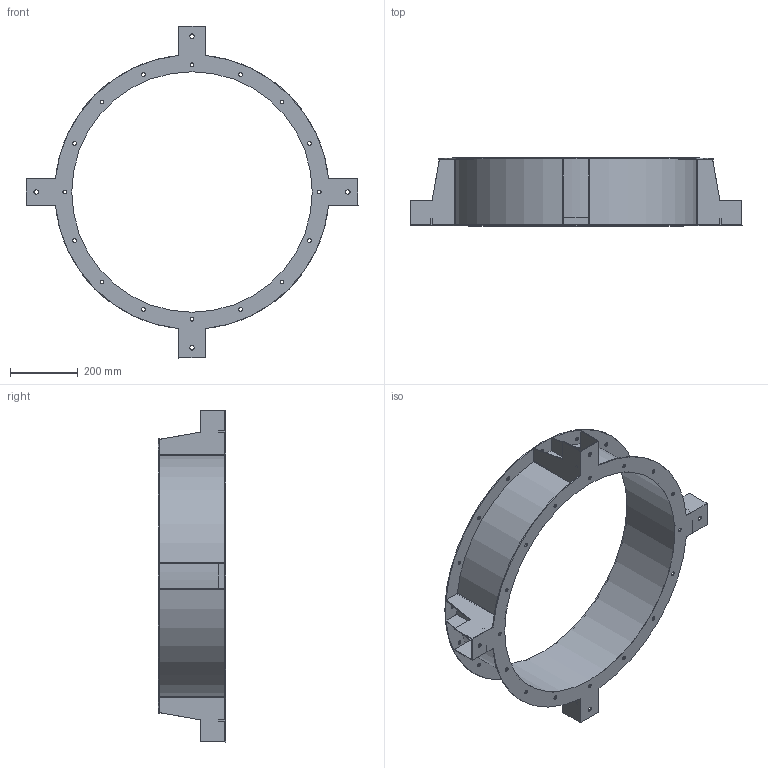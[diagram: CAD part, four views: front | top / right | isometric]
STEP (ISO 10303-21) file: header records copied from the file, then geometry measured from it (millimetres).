
FILE_DESCRIPTION(/* description */ (''),/* implementation_level */ '2;1');
FILE_NAME(/* name */ 'Z:\Output\MRV_710-01743-002.stp',/* time_stamp */ '2020-05-11T10:52:13+02:00',/* author */ ('jayeshpanchal'),/* organization */ (''),/* preprocessor_version */ 'ST-DEVELOPER v17.2',/* originating_system */ 'Autodesk Inventor 2019',/* authorisation */ '');
FILE_SCHEMA (('AUTOMOTIVE_DESIGN { 1 0 10303 214 3 1 1 }'));
Length unit declared in the file: millimetre
Products named in the file (1): MRV-1
Bounding box: 980 x 200 x 980 mm (x, y, z)
Volume: 2497778.3 mm3; surface area: 1685267.2 mm2
Topology: 1 solids, 1 shells, 120 faces, 341 edges, 223 vertices
Faces by surface type: plane 62, cylinder 50, cone 8
Full cylindrical faces by diameter (mm): 11.5 x32, 13 x4, 710 x1, 810 x1
Entity records: 4101 total; most frequent: CARTESIAN_POINT 717, DIRECTION 694, ORIENTED_EDGE 682, EDGE_CURVE 341, AXIS2_PLACEMENT_3D 248, VERTEX_POINT 223, LINE 198, VECTOR 198
